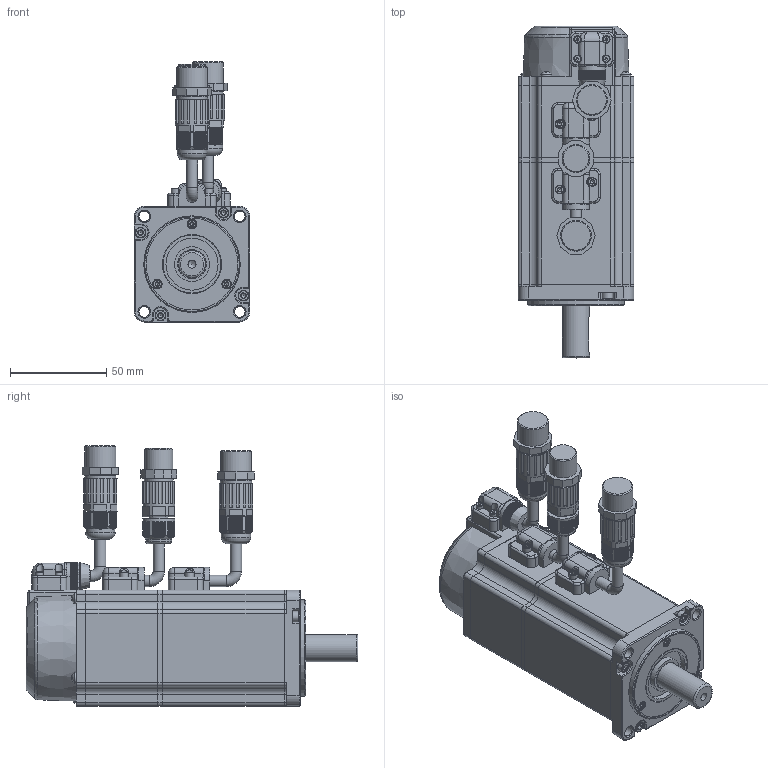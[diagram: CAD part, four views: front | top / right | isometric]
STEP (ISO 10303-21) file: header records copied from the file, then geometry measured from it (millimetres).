
FILE_DESCRIPTION(/* description */ (''),/* implementation_level */ '2;1');
FILE_NAME(/* name */ '60SY-M01330S1-5-Z.stp',/* time_stamp */ '2024-01-04T10:53:07+08:00',/* author */ (''),/* organization */ (''),/* preprocessor_version */ 'ST-DEVELOPER v18.1',/* originating_system */ 'SIEMENS PLM Software NX 2000',/* authorisation */ '');
FILE_SCHEMA (('AUTOMOTIVE_DESIGN { 1 0 10303 214 3 1 1 1 }'));
Products named in the file (1): 60S1电机外形图(00630)
Bounding box: 60 x 172 x 134.76 mm (x, y, z)
Volume: 430747.1 mm3; surface area: 105049.4 mm2
Topology: 36 solids, 42 shells, 3261 faces, 8738 edges, 5605 vertices
Faces by surface type: plane 2213, cylinder 650, sphere 142, cone 121, torus 80, bspline 55
Full cylindrical faces by diameter (mm): 1.5 x4, 2 x8, 2.05 x3, 2.1 x4, 2.38 x7, 2.5 x10, 2.6 x4, 2.874 x4, 2.9 x3, 3.4 x8, 3.5 x8, 3.8 x4, 4.2 x1, 4.5 x7, 5 x3, 5.5 x8, 5.8 x8, 10 x1, 13 x2, 13.5 x1, 14 x1, 14.5 x1, 14.8 x1, 15 x2, 15.3 x2, 15.6 x2, 16 x2, 16.1 x2, 16.5 x2, 17.3 x2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
Entity records: 103077 total; most frequent: CARTESIAN_POINT 25000, ORIENTED_EDGE 16864, DIRECTION 14867, EDGE_CURVE 8432, VERTEX_POINT 5537, AXIS2_PLACEMENT_3D 5028, LINE 4811, VECTOR 4811
